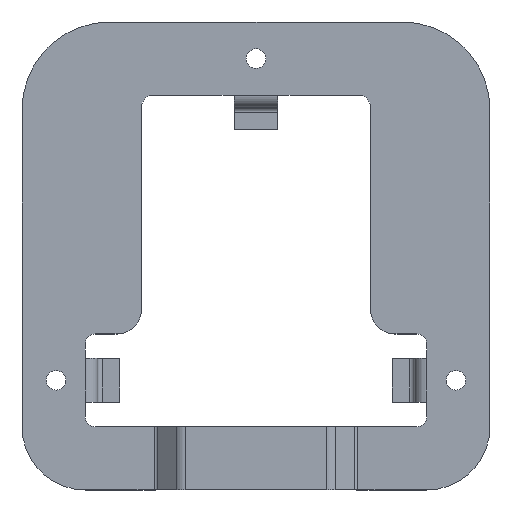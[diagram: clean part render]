
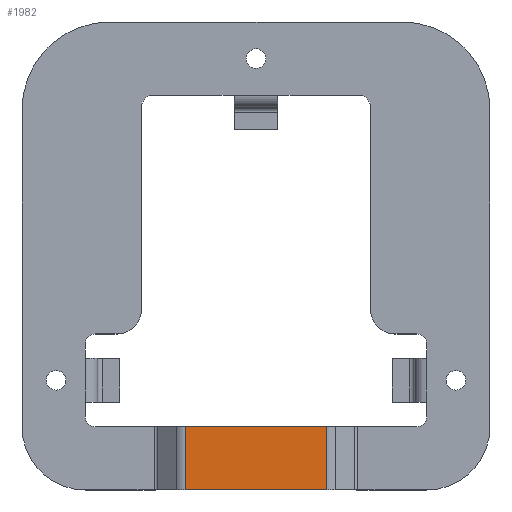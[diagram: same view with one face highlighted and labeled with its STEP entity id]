
A CAD part, top view. The second image highlights one B-rep face of the part: STEP entity #1982.
In plain terms, the highlighted planar face has unit normal (0, 0, 1).
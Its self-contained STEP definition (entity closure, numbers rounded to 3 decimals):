
#77 = VERTEX_POINT ( 'NONE', #1820 ) ;
#218 = DIRECTION ( 'NONE',  ( 0., -1., 0. ) ) ;
#261 = LINE ( 'NONE', #2384, #1497 ) ;
#322 = VECTOR ( 'NONE', #1415, 1000. ) ;
#389 = EDGE_LOOP ( 'NONE', ( #1137, #1894, #1272, #855 ) ) ;
#778 = DIRECTION ( 'NONE',  ( 1., 0., 0. ) ) ;
#855 = ORIENTED_EDGE ( 'NONE', *, *, #1165, .F. ) ;
#1038 = LINE ( 'NONE', #2519, #2812 ) ;
#1053 = CARTESIAN_POINT ( 'NONE',  ( 62.541, 13., 4.5 ) ) ;
#1116 = VERTEX_POINT ( 'NONE', #1470 ) ;
#1137 = ORIENTED_EDGE ( 'NONE', *, *, #2483, .F. ) ;
#1149 = CARTESIAN_POINT ( 'NONE',  ( 62.541, 54.437, 4.5 ) ) ;
#1158 = DIRECTION ( 'NONE',  ( 0., 0., 1. ) ) ;
#1165 = EDGE_CURVE ( 'NONE', #2150, #1116, #2155, .T. ) ;
#1272 = ORIENTED_EDGE ( 'NONE', *, *, #1921, .F. ) ;
#1377 = PLANE ( 'NONE',  #1919 ) ;
#1415 = DIRECTION ( 'NONE',  ( 0., -1., 0. ) ) ;
#1470 = CARTESIAN_POINT ( 'NONE',  ( 62.541, 0., 4.5 ) ) ;
#1497 = VECTOR ( 'NONE', #778, 1000. ) ;
#1820 = CARTESIAN_POINT ( 'NONE',  ( 33.459, 13., 4.5 ) ) ;
#1854 = LINE ( 'NONE', #2746, #2956 ) ;
#1894 = ORIENTED_EDGE ( 'NONE', *, *, #1972, .T. ) ;
#1919 = AXIS2_PLACEMENT_3D ( 'NONE', #1149, #1158, #2783 ) ;
#1921 = EDGE_CURVE ( 'NONE', #1116, #2295, #1854, .T. ) ;
#1972 = EDGE_CURVE ( 'NONE', #77, #2295, #1038, .T. ) ;
#1982 = ADVANCED_FACE ( 'NONE', ( #2175 ), #1377, .T. ) ;
#2034 = CARTESIAN_POINT ( 'NONE',  ( 33.459, 0., 4.5 ) ) ;
#2150 = VERTEX_POINT ( 'NONE', #1053 ) ;
#2155 = LINE ( 'NONE', #2562, #322 ) ;
#2175 = FACE_OUTER_BOUND ( 'NONE', #389, .T. ) ;
#2295 = VERTEX_POINT ( 'NONE', #2034 ) ;
#2384 = CARTESIAN_POINT ( 'NONE',  ( 62.541, 13., 4.5 ) ) ;
#2483 = EDGE_CURVE ( 'NONE', #77, #2150, #261, .T. ) ;
#2519 = CARTESIAN_POINT ( 'NONE',  ( 33.459, 54.437, 4.5 ) ) ;
#2562 = CARTESIAN_POINT ( 'NONE',  ( 62.541, 54.437, 4.5 ) ) ;
#2746 = CARTESIAN_POINT ( 'NONE',  ( 62.541, 0., 4.5 ) ) ;
#2783 = DIRECTION ( 'NONE',  ( 1., 0., 0. ) ) ;
#2812 = VECTOR ( 'NONE', #218, 1000. ) ;
#2956 = VECTOR ( 'NONE', #2975, 1000. ) ;
#2975 = DIRECTION ( 'NONE',  ( -1., 0., 0. ) ) ;
